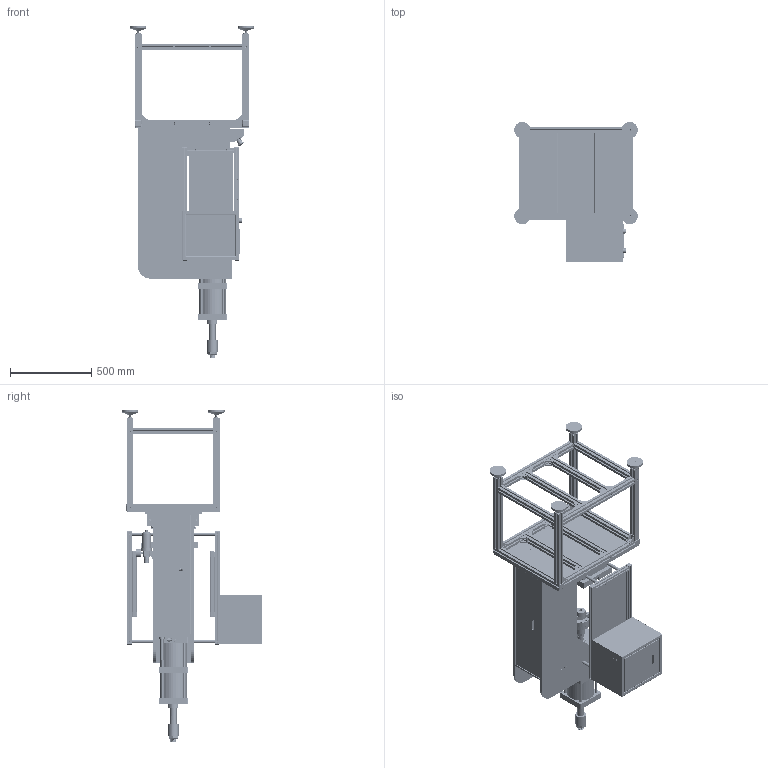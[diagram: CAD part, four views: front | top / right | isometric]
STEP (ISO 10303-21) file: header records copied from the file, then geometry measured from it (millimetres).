
FILE_DESCRIPTION((''),'2;1');
FILE_NAME('ZHENJI_ASM','2026-06-03T14:52:32',('zxb27'),(''),'CREO PARAMETRIC BY PTC INC, 2022164','CREO PARAMETRIC BY PTC INC, 2022164','');
FILE_SCHEMA(('AUTOMOTIVE_DESIGN { 1 0 10303 214 1 1 1 1 }'));
Products named in the file (1): ZHENJI_ASM
Bounding box: 760 x 860 x 2042.62 mm (x, y, z)
Surface area: 12761602 mm2 (no closed solid volume)
Topology: 0 solids, 226 shells, 10189 faces, 27591 edges, 17598 vertices
Faces by surface type: plane 6392, cylinder 2776, cone 502, bspline 329, torus 156, sphere 32, extrusion 2
Entity records: 512724 total; most frequent: CARTESIAN_POINT 200496, ORIENTED_EDGE 54433, DIRECTION 51120, EDGE_CURVE 27477, VECTOR 18674, LINE 18672, VERTEX_POINT 17598, AXIS2_PLACEMENT_3D 16223
